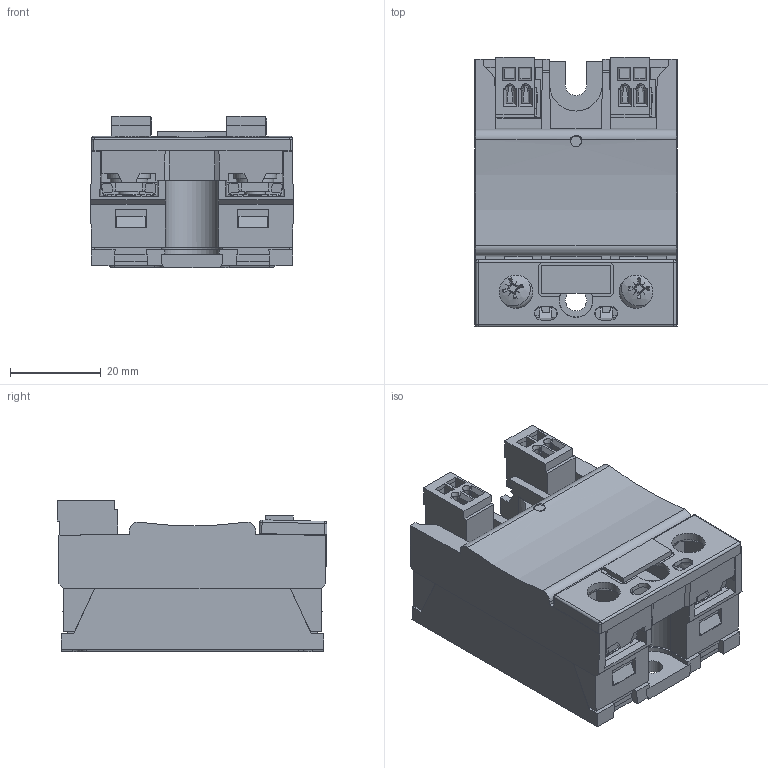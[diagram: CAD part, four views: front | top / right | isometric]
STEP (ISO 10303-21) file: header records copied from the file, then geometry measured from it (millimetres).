
FILE_DESCRIPTION((''),'2;1');
FILE_NAME('R:\Stock\3D pour clients\CELDUC references\2D3D 596 A.stp','2012-07-04T07:37:29',('Georges THOLLOT ','Tl : +33 (0)4 77 53 90 27','gthollot@celduc.com'),('Celduc r e l a i s','5, rue Ampre, BP 30004','42290 SORBIERS - France','Fax. : +33 (0)4 77 53 85 51','N siret 353 310 519 00015','ISO 9001 N QUAL/1993/1106b','www.celduc.com'),'Autodesk Inventor 2010','Autodesk Inventor 2010','');
FILE_SCHEMA(('CONFIG_CONTROL_DESIGN'));
Length unit declared in the file: millimetre
Products named in the file (3): SOR; WAGO 734 102
Assembly tree (3 placements, depth 2):
  SOR
    SOR
    WAGO 734 102  x2
Bounding box: 44.8 x 59.6 x 33.5 mm (x, y, z)
Volume: 61260.8 mm3; surface area: 21218.6 mm2
Topology: 3 solids, 5 shells, 1104 faces, 2966 edges, 1908 vertices
Faces by surface type: plane 827, cone 126, bspline 69, cylinder 66, torus 10, sphere 6
Full cylindrical faces by diameter (mm): 1.5 x4, 4.567 x2, 4.7 x1
Entity records: 33268 total; most frequent: CARTESIAN_POINT 8205, ORIENTED_EDGE 5300, DIRECTION 4559, EDGE_CURVE 2650, VECTOR 2069, LINE 2069, VERTEX_POINT 1733, AXIS2_PLACEMENT_3D 1245
